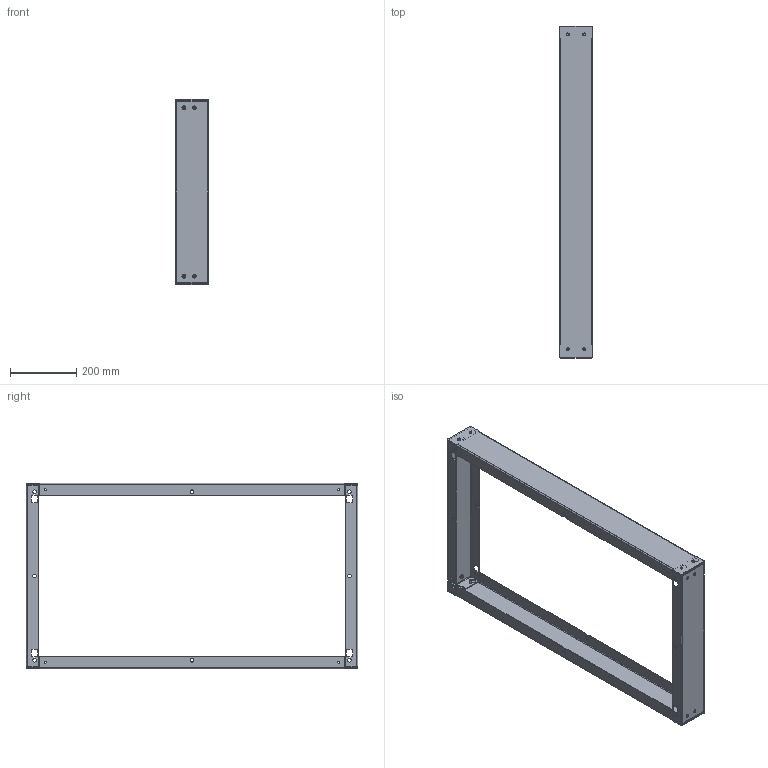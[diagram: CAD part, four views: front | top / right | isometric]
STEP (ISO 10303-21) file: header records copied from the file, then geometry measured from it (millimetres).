
FILE_DESCRIPTION((''),'2;1');
FILE_NAME('MODEL-262_ASM','2021-08-31T14:29:08',('JoshI'),('SAGINAW CONTROL & ENGINEERING'),'CREO PARAMETRIC BY PTC INC, 2017260','CREO PARAMETRIC BY PTC INC, 2017260','');
FILE_SCHEMA(('AUTOMOTIVE_DESIGN { 1 0 10303 214 1 1 1 1 }'));
Length unit declared in the file: inch
Products named in the file (6): MODEL-262-SIDE-CHNL; MODEL-262-FB-CHNL; 100064; 100028; 108622; MODEL-262_ASM
Assembly tree (21 placements, depth 2):
  MODEL-262_ASM
    MODEL-262-SIDE-CHNL  x2
    MODEL-262-FB-CHNL  x2
    100064  x8
    100028  x8
    108622
Bounding box: 100.08 x 1000 x 559.05 mm (x, y, z)
Volume: 1371124.4 mm3; surface area: 1066660.2 mm2
Topology: 20 solids, 20 shells, 704 faces, 1768 edges, 1120 vertices
Faces by surface type: cylinder 344, plane 240, torus 48, bspline 40, cone 32
Entity records: 13522 total; most frequent: CARTESIAN_POINT 2818, DIRECTION 1564, ORIENTED_EDGE 1468, PRESENTATION_STYLE_ASSIGNMENT 738, STYLED_ITEM 738, CURVE_STYLE 734, EDGE_CURVE 734, AXIS2_PLACEMENT_3D 573
